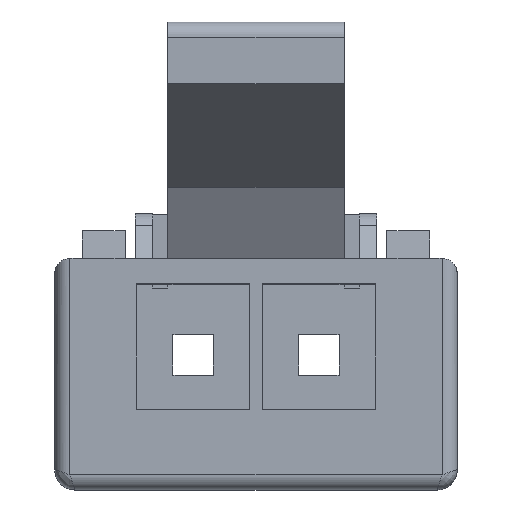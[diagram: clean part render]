
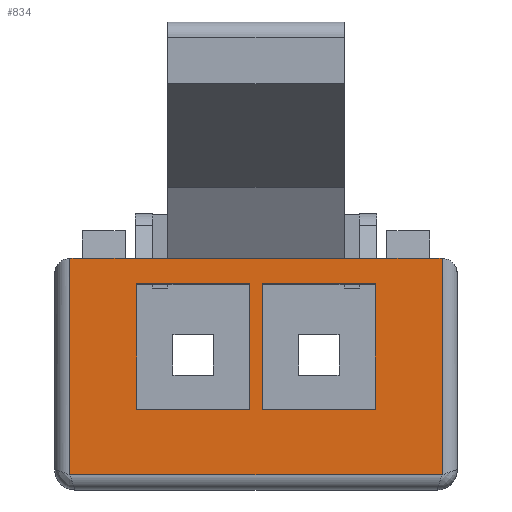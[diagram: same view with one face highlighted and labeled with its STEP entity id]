
A CAD part, top view. The second image highlights one B-rep face of the part: STEP entity #834.
In plain terms, the highlighted planar face has unit normal (0, 0, 1).
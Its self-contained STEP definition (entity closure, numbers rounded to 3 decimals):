
#471=CARTESIAN_POINT('Vertex',(2.375,4.1,11.8)) ;
#474=CARTESIAN_POINT('Line Origine',(1.25,4.1,11.8)) ;
#478=CARTESIAN_POINT('Vertex',(0.125,4.1,11.8)) ;
#514=CARTESIAN_POINT('Line Origine',(0.125,2.85,11.8)) ;
#518=CARTESIAN_POINT('Vertex',(0.125,1.6,11.8)) ;
#605=CARTESIAN_POINT('Vertex',(2.375,1.6,11.8)) ;
#608=CARTESIAN_POINT('Line Origine',(2.375,2.85,11.8)) ;
#718=CARTESIAN_POINT('Axis2P3D Location',(0.,4.6,11.8)) ;
#723=CARTESIAN_POINT('Line Origine',(3.575,4.6,11.8)) ;
#727=CARTESIAN_POINT('Vertex',(3.45,4.6,11.8)) ;
#729=CARTESIAN_POINT('Vertex',(3.7,4.6,11.8)) ;
#732=CARTESIAN_POINT('Line Origine',(3.025,4.6,11.8)) ;
#736=CARTESIAN_POINT('Vertex',(2.6,4.6,11.8)) ;
#739=CARTESIAN_POINT('Line Origine',(0.,4.6,11.8)) ;
#743=CARTESIAN_POINT('Vertex',(-2.6,4.6,11.8)) ;
#746=CARTESIAN_POINT('Line Origine',(-3.025,4.6,11.8)) ;
#750=CARTESIAN_POINT('Vertex',(-3.45,4.6,11.8)) ;
#753=CARTESIAN_POINT('Line Origine',(-3.575,4.6,11.8)) ;
#757=CARTESIAN_POINT('Vertex',(-3.7,4.6,11.8)) ;
#760=CARTESIAN_POINT('Line Origine',(-3.7,2.45,11.8)) ;
#764=CARTESIAN_POINT('Vertex',(-3.7,0.3,11.8)) ;
#767=CARTESIAN_POINT('Line Origine',(0.,0.3,11.8)) ;
#771=CARTESIAN_POINT('Vertex',(3.7,0.3,11.8)) ;
#774=CARTESIAN_POINT('Line Origine',(3.7,2.45,11.8)) ;
#789=CARTESIAN_POINT('Line Origine',(-2.375,2.85,11.8)) ;
#793=CARTESIAN_POINT('Vertex',(-2.375,4.1,11.8)) ;
#795=CARTESIAN_POINT('Vertex',(-2.375,1.6,11.8)) ;
#798=CARTESIAN_POINT('Line Origine',(-1.25,4.1,11.8)) ;
#802=CARTESIAN_POINT('Vertex',(-0.125,4.1,11.8)) ;
#805=CARTESIAN_POINT('Line Origine',(-0.125,2.85,11.8)) ;
#809=CARTESIAN_POINT('Vertex',(-0.125,1.6,11.8)) ;
#812=CARTESIAN_POINT('Line Origine',(-1.25,1.6,11.8)) ;
#823=CARTESIAN_POINT('Line Origine',(1.25,1.6,11.8)) ;
#475=DIRECTION('Vector Direction',(1.,0.,0.)) ;
#515=DIRECTION('Vector Direction',(0.,-1.,0.)) ;
#609=DIRECTION('Vector Direction',(0.,1.,0.)) ;
#719=DIRECTION('Axis2P3D Direction',(-0.,0.,1.)) ;
#720=DIRECTION('Axis2P3D XDirection',(0.,-1.,0.)) ;
#724=DIRECTION('Vector Direction',(1.,0.,0.)) ;
#733=DIRECTION('Vector Direction',(1.,0.,0.)) ;
#740=DIRECTION('Vector Direction',(1.,0.,0.)) ;
#747=DIRECTION('Vector Direction',(1.,0.,0.)) ;
#754=DIRECTION('Vector Direction',(1.,0.,0.)) ;
#761=DIRECTION('Vector Direction',(0.,-1.,0.)) ;
#768=DIRECTION('Vector Direction',(1.,0.,0.)) ;
#775=DIRECTION('Vector Direction',(0.,-1.,0.)) ;
#790=DIRECTION('Vector Direction',(0.,-1.,0.)) ;
#799=DIRECTION('Vector Direction',(1.,0.,0.)) ;
#806=DIRECTION('Vector Direction',(0.,1.,0.)) ;
#813=DIRECTION('Vector Direction',(-1.,0.,0.)) ;
#824=DIRECTION('Vector Direction',(-1.,0.,0.)) ;
#721=AXIS2_PLACEMENT_3D('Plane Axis2P3D',#718,#719,#720) ;
#780=ORIENTED_EDGE('',*,*,#731,.F.) ;
#781=ORIENTED_EDGE('',*,*,#738,.F.) ;
#782=ORIENTED_EDGE('',*,*,#745,.F.) ;
#783=ORIENTED_EDGE('',*,*,#752,.F.) ;
#784=ORIENTED_EDGE('',*,*,#759,.F.) ;
#785=ORIENTED_EDGE('',*,*,#766,.T.) ;
#786=ORIENTED_EDGE('',*,*,#773,.T.) ;
#787=ORIENTED_EDGE('',*,*,#778,.T.) ;
#818=ORIENTED_EDGE('',*,*,#797,.F.) ;
#819=ORIENTED_EDGE('',*,*,#804,.F.) ;
#820=ORIENTED_EDGE('',*,*,#811,.F.) ;
#821=ORIENTED_EDGE('',*,*,#816,.F.) ;
#829=ORIENTED_EDGE('',*,*,#520,.F.) ;
#830=ORIENTED_EDGE('',*,*,#480,.F.) ;
#831=ORIENTED_EDGE('',*,*,#612,.F.) ;
#832=ORIENTED_EDGE('',*,*,#827,.F.) ;
#822=FACE_BOUND('',#817,.T.) ;
#833=FACE_BOUND('',#828,.T.) ;
#476=VECTOR('Line Direction',#475,1.) ;
#516=VECTOR('Line Direction',#515,1.) ;
#610=VECTOR('Line Direction',#609,1.) ;
#725=VECTOR('Line Direction',#724,1.) ;
#734=VECTOR('Line Direction',#733,1.) ;
#741=VECTOR('Line Direction',#740,1.) ;
#748=VECTOR('Line Direction',#747,1.) ;
#755=VECTOR('Line Direction',#754,1.) ;
#762=VECTOR('Line Direction',#761,1.) ;
#769=VECTOR('Line Direction',#768,1.) ;
#776=VECTOR('Line Direction',#775,1.) ;
#791=VECTOR('Line Direction',#790,1.) ;
#800=VECTOR('Line Direction',#799,1.) ;
#807=VECTOR('Line Direction',#806,1.) ;
#814=VECTOR('Line Direction',#813,1.) ;
#825=VECTOR('Line Direction',#824,1.) ;
#834=ADVANCED_FACE('\X2\96F64EF651E04F554F53\X0\',(#788,#822,#833),#722,.T.) ;
#480=EDGE_CURVE('',#472,#479,#477,.F.) ;
#520=EDGE_CURVE('',#479,#519,#517,.T.) ;
#612=EDGE_CURVE('',#606,#472,#611,.T.) ;
#731=EDGE_CURVE('',#728,#730,#726,.T.) ;
#738=EDGE_CURVE('',#737,#728,#735,.T.) ;
#745=EDGE_CURVE('',#744,#737,#742,.T.) ;
#752=EDGE_CURVE('',#751,#744,#749,.T.) ;
#759=EDGE_CURVE('',#758,#751,#756,.T.) ;
#766=EDGE_CURVE('',#758,#765,#763,.T.) ;
#773=EDGE_CURVE('',#765,#772,#770,.T.) ;
#778=EDGE_CURVE('',#772,#730,#777,.F.) ;
#797=EDGE_CURVE('',#794,#796,#792,.T.) ;
#804=EDGE_CURVE('',#803,#794,#801,.F.) ;
#811=EDGE_CURVE('',#810,#803,#808,.T.) ;
#816=EDGE_CURVE('',#796,#810,#815,.F.) ;
#827=EDGE_CURVE('',#519,#606,#826,.F.) ;
#779=EDGE_LOOP('',(#780,#781,#782,#783,#784,#785,#786,#787)) ;
#817=EDGE_LOOP('',(#818,#819,#820,#821)) ;
#828=EDGE_LOOP('',(#829,#830,#831,#832)) ;
#788=FACE_OUTER_BOUND('',#779,.T.) ;
#477=LINE('Line',#474,#476) ;
#517=LINE('Line',#514,#516) ;
#611=LINE('Line',#608,#610) ;
#726=LINE('Line',#723,#725) ;
#735=LINE('Line',#732,#734) ;
#742=LINE('Line',#739,#741) ;
#749=LINE('Line',#746,#748) ;
#756=LINE('Line',#753,#755) ;
#763=LINE('Line',#760,#762) ;
#770=LINE('Line',#767,#769) ;
#777=LINE('Line',#774,#776) ;
#792=LINE('Line',#789,#791) ;
#801=LINE('Line',#798,#800) ;
#808=LINE('Line',#805,#807) ;
#815=LINE('Line',#812,#814) ;
#826=LINE('Line',#823,#825) ;
#722=PLANE('Plane',#721) ;
#472=VERTEX_POINT('',#471) ;
#479=VERTEX_POINT('',#478) ;
#519=VERTEX_POINT('',#518) ;
#606=VERTEX_POINT('',#605) ;
#728=VERTEX_POINT('',#727) ;
#730=VERTEX_POINT('',#729) ;
#737=VERTEX_POINT('',#736) ;
#744=VERTEX_POINT('',#743) ;
#751=VERTEX_POINT('',#750) ;
#758=VERTEX_POINT('',#757) ;
#765=VERTEX_POINT('',#764) ;
#772=VERTEX_POINT('',#771) ;
#794=VERTEX_POINT('',#793) ;
#796=VERTEX_POINT('',#795) ;
#803=VERTEX_POINT('',#802) ;
#810=VERTEX_POINT('',#809) ;
